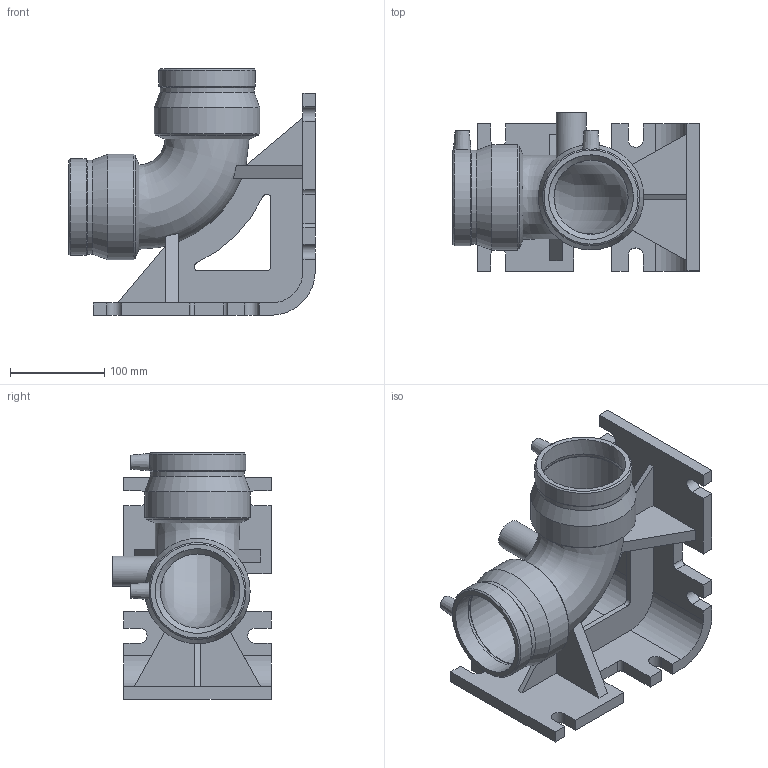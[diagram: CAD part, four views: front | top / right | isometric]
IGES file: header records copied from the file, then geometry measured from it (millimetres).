
Global section: file name: 4915Q4090032.ipt; native system: Autodesk Inventor 2015; preprocessor: unknown; author: KIM; date: 20171106.093911; units: millimetre
Bounding box: 262 x 168.4 x 262 mm (x, y, z)
Volume: 1594751.3 mm3; surface area: 368658.2 mm2
Topology: 1 solids, 1 shells, 140 faces, 384 edges, 254 vertices
Faces by surface type: plane 81, revolution 34, cone 14, cylinder 11
Full cylindrical faces by diameter (mm): 4 x2, 32 x1, 99.949 x2, 112 x2
